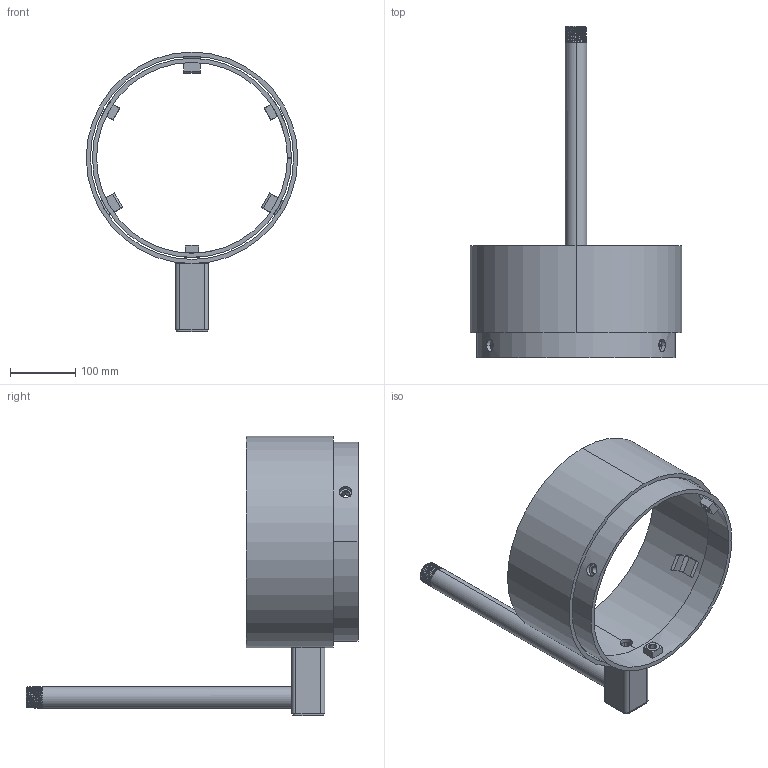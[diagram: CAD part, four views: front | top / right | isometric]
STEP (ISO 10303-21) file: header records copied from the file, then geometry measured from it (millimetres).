
FILE_DESCRIPTION (( 'STEP AP203' ), '1' );
FILE_NAME ('cad-155_1_Series_5.25_Mounting_Ring_with_Post_dwg.STEP', '2019-05-03T02:37:24', ( '' ), ( '' ), 'SwSTEP 2.0', 'SolidWorks 2018', '' );
FILE_SCHEMA (( 'CONFIG_CONTROL_DESIGN' ));
Length unit declared in the file: inch
Products named in the file (1): cad-155_1_Series_5.25_Mounting_Ring_with_Post_dwg
Bounding box: 323.85 x 508.25 x 428.5 mm (x, y, z)
Volume: 1314856.5 mm3; surface area: 509900.7 mm2
Topology: 11 solids, 11 shells, 180 faces, 447 edges, 287 vertices
Faces by surface type: plane 60, cone 56, cylinder 55, bspline 9
Entity records: 12296 total; most frequent: CARTESIAN_POINT 8041, ORIENTED_EDGE 894, DIRECTION 811, EDGE_CURVE 447, AXIS2_PLACEMENT_3D 305, VERTEX_POINT 287, VECTOR 201, LINE 201
